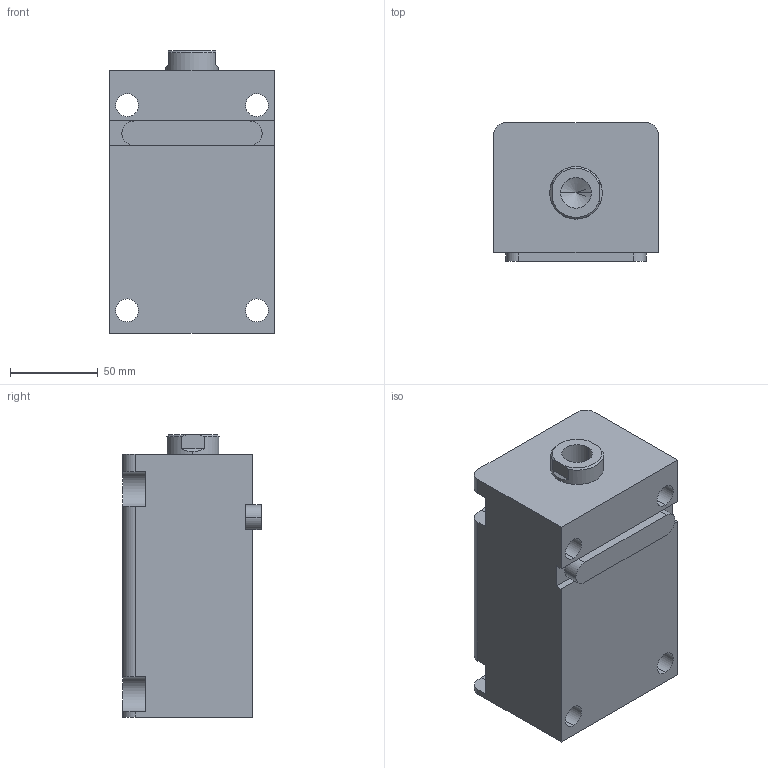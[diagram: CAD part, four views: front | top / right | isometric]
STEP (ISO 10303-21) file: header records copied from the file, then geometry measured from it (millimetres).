
FILE_DESCRIPTION (( 'STEP AP203' ), '1' );
FILE_NAME ('HTB-LA50-90N.STEP', '2019-10-09T07:13:29', ( '微软用户' ), ( '微软中国' ), 'SwSTEP 2.0', 'SolidWorks 2012', '' );
FILE_SCHEMA (( 'CONFIG_CONTROL_DESIGN' ));
Length unit declared in the file: millimetre
Products named in the file (4): HTB-LA50-瑩; HTB-LA50-90N活塞杆; HTB-LA50-90N; HTB-LA50-90掛极
Assembly tree (3 placements, depth 2):
  HTB-LA50-90N
    HTB-LA50-90掛极
    HTB-LA50-90N活塞杆
    HTB-LA50-瑩
Bounding box: 94 x 79 x 161 mm (x, y, z)
Volume: 879939.8 mm3; surface area: 122617.1 mm2
Topology: 3 solids, 3 shells, 86 faces, 213 edges, 139 vertices
Faces by surface type: plane 39, cylinder 35, cone 8, torus 4
Entity records: 3001 total; most frequent: DIRECTION 475, CARTESIAN_POINT 470, ORIENTED_EDGE 422, EDGE_CURVE 211, AXIS2_PLACEMENT_3D 180, VERTEX_POINT 139, VECTOR 115, LINE 115
